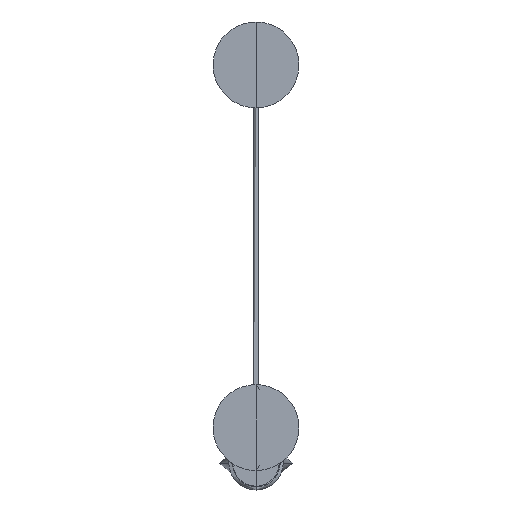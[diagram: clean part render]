
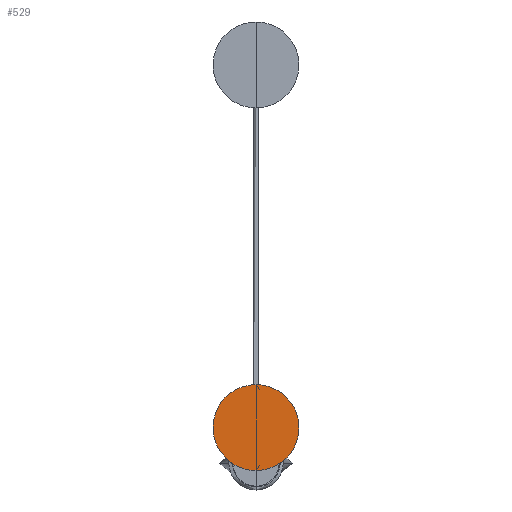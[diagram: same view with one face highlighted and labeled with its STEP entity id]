
A CAD part, top view. The second image highlights one B-rep face of the part: STEP entity #529.
In plain terms, the highlighted planar face has unit normal (0, 0, 1).
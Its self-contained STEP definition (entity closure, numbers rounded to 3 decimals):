
#529=ADVANCED_FACE($,(#679),#2558,.T.);
#679=FACE_OUTER_BOUND($,#841,.T.);
#841=EDGE_LOOP($,(#1383,#1384));
#1383=ORIENTED_EDGE($,*,*,#1924,.T.);
#1384=ORIENTED_EDGE($,*,*,#1925,.T.);
#1924=EDGE_CURVE($,#2446,#2447,#2910,.T.);
#1925=EDGE_CURVE($,#2447,#2446,#2911,.T.);
#2446=VERTEX_POINT($,#7622);
#2447=VERTEX_POINT($,#7623);
#2558=PLANE($,#3670);
#2910=(
BOUNDED_CURVE()
B_SPLINE_CURVE(2,(#7611,#7612,#7613,#7614,#7615),.UNSPECIFIED.,.F.,.F.)
B_SPLINE_CURVE_WITH_KNOTS((3,2,3),(-17.047,-12.785,-8.523),
.UNSPECIFIED.)
CURVE()
GEOMETRIC_REPRESENTATION_ITEM()
RATIONAL_B_SPLINE_CURVE((1.,0.707,1.,0.707,
1.))
REPRESENTATION_ITEM($)
);
#2911=(
BOUNDED_CURVE()
B_SPLINE_CURVE(2,(#7616,#7617,#7618,#7619,#7620),.UNSPECIFIED.,.F.,.F.)
B_SPLINE_CURVE_WITH_KNOTS((3,2,3),(-8.523,-4.262,0.),
.UNSPECIFIED.)
CURVE()
GEOMETRIC_REPRESENTATION_ITEM()
RATIONAL_B_SPLINE_CURVE((1.,0.707,1.,0.707,
1.))
REPRESENTATION_ITEM($)
);
#3670=AXIS2_PLACEMENT_3D($,#7621,#3773,$);
#3773=DIRECTION($,(0.,0.,1.));
#7611=CARTESIAN_POINT($,(0.,156.035,601.608));
#7612=CARTESIAN_POINT($,(-65.819,156.035,601.608));
#7613=CARTESIAN_POINT($,(-65.819,90.217,601.608));
#7614=CARTESIAN_POINT($,(-65.819,24.398,601.608));
#7615=CARTESIAN_POINT($,(0.,24.398,601.608));
#7616=CARTESIAN_POINT($,(0.,24.398,601.608));
#7617=CARTESIAN_POINT($,(65.819,24.398,601.608));
#7618=CARTESIAN_POINT($,(65.819,90.217,601.608));
#7619=CARTESIAN_POINT($,(65.819,156.035,601.608));
#7620=CARTESIAN_POINT($,(0.,156.035,601.608));
#7621=CARTESIAN_POINT($,(-67.135,23.082,601.608));
#7622=CARTESIAN_POINT($,(0.,156.035,601.608));
#7623=CARTESIAN_POINT($,(0.,24.398,601.608));
